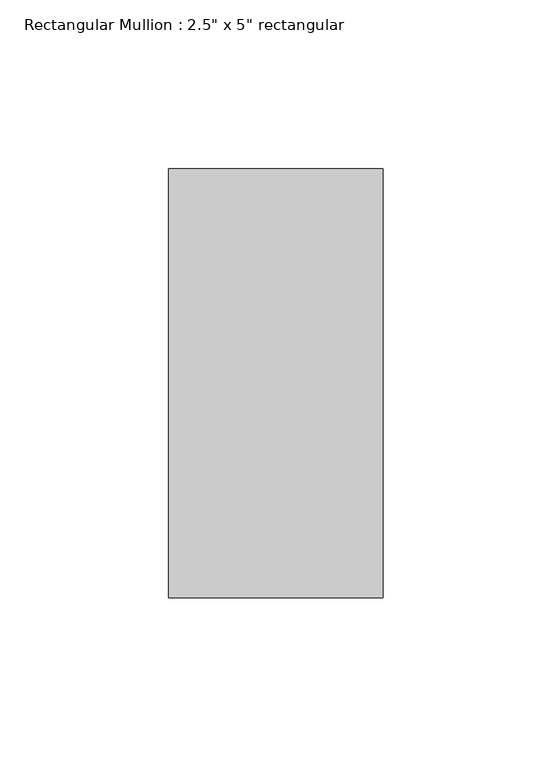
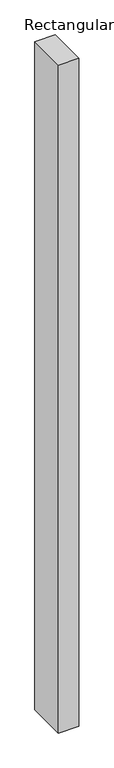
"""IFC4 building model written with IfcOpenShell, lengths in millimetres: member geometry."""

from ifc_helpers import new_model, si_unit, frame, origin, place, context, project, spatial, polyline, outline, extrude, source, transform, mapped, element, save


def member_73a57e35(model_context):
    return source(origin(), model_context, "Body", "SweptSolid", [
        extrude(outline(polyline([(0.0, 63.5), (0.0, -63.5), (-63.5, -63.5), (-63.5, 63.5), (0.0, 63.5)])), frame((0.0, 0.0, -2197.1), z_axis=(0.0, 0.0, 1.0), x_axis=(1.0, 0.0, 0.0)), (0.0, 0.0, 1.0), 2197.1),
    ])


if __name__ == "__main__":
    model = new_model("IFC4")
    model_context = context("Model", 3, world=origin())
    ifc_project = project(units=[si_unit("LENGTHUNIT", "METRE", prefix="MILLI")], contexts=[model_context])
    site = spatial("IfcSite", under=ifc_project)
    building = spatial("IfcBuilding", under=site)
    placement = place(None, origin())
    member_shape = member_73a57e35(model_context)
    element("IfcMember", 1, ObjectType="Rectangular Mullion : 2.5\" x 5\" rectangular", at=placement, inside=building, context=model_context, shape_type="MappedRepresentation", body=[
        mapped(member_shape, transform((0.0, 0.0, 0.0), x_axis=(1.0, 0.0, 0.0), y_axis=(0.0, 1.0, 0.0), z_axis=(0.0, 0.0, 1.0))),
    ])
    save(model, "model.ifc")
